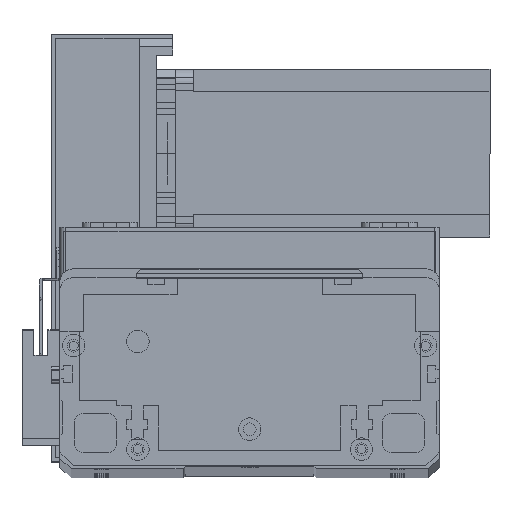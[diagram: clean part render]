
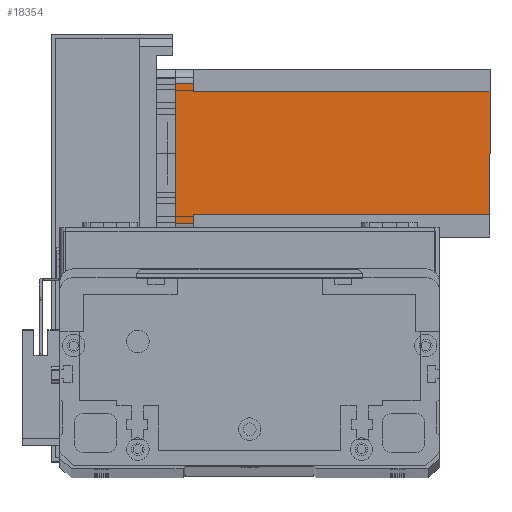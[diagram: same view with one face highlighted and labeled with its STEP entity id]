
A CAD part, top view. The second image highlights one B-rep face of the part: STEP entity #18354.
In plain terms, the highlighted planar face has unit normal (0, 0, 1) as drawn and (0, -1, 0) by its records, which use the part's own axes.
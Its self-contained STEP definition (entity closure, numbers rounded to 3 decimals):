
#1240 = LINE ( 'NONE', #21075, #24527 ) ;
#1861 = VECTOR ( 'NONE', #13462, 1000. ) ;
#3330 = ORIENTED_EDGE ( 'NONE', *, *, #12557, .T. ) ;
#4316 = DIRECTION ( 'NONE',  ( -1., 0., 0. ) ) ;
#4431 = DIRECTION ( 'NONE',  ( 0., 0., -1. ) ) ;
#4664 = VERTEX_POINT ( 'NONE', #28000 ) ;
#5072 = EDGE_CURVE ( 'NONE', #11538, #13471, #6957, .T. ) ;
#6458 = DIRECTION ( 'NONE',  ( 1., 0., 0. ) ) ;
#6760 = CARTESIAN_POINT ( 'NONE',  ( 0., 0., -112.5 ) ) ;
#6957 = LINE ( 'NONE', #7087, #18583 ) ;
#7087 = CARTESIAN_POINT ( 'NONE',  ( 55., 0., -112.5 ) ) ;
#7436 = VECTOR ( 'NONE', #6458, 1000. ) ;
#7635 = VECTOR ( 'NONE', #4316, 1000. ) ;
#9185 = PLANE ( 'NONE',  #15943 ) ;
#9701 = VERTEX_POINT ( 'NONE', #13020 ) ;
#10128 = DIRECTION ( 'NONE',  ( 1., 0., 0. ) ) ;
#10330 = EDGE_CURVE ( 'NONE', #14478, #11538, #13953, .T. ) ;
#10593 = VECTOR ( 'NONE', #23743, 1000. ) ;
#11398 = CARTESIAN_POINT ( 'NONE',  ( 8., 0., -6.5 ) ) ;
#11538 = VERTEX_POINT ( 'NONE', #17434 ) ;
#11809 = EDGE_CURVE ( 'NONE', #14230, #4664, #26739, .T. ) ;
#12557 = EDGE_CURVE ( 'NONE', #25997, #16082, #28117, .T. ) ;
#13020 = CARTESIAN_POINT ( 'NONE',  ( 5., 0., 0. ) ) ;
#13315 = CARTESIAN_POINT ( 'NONE',  ( 55., 0., 0. ) ) ;
#13462 = DIRECTION ( 'NONE',  ( 0., 0., 1. ) ) ;
#13471 = VERTEX_POINT ( 'NONE', #13315 ) ;
#13690 = LINE ( 'NONE', #20358, #7436 ) ;
#13860 = ORIENTED_EDGE ( 'NONE', *, *, #10330, .T. ) ;
#13953 = LINE ( 'NONE', #23844, #14665 ) ;
#14230 = VERTEX_POINT ( 'NONE', #18370 ) ;
#14478 = VERTEX_POINT ( 'NONE', #17144 ) ;
#14653 = CARTESIAN_POINT ( 'NONE',  ( 0., 0., -112.5 ) ) ;
#14665 = VECTOR ( 'NONE', #10128, 1000. ) ;
#15261 = EDGE_CURVE ( 'NONE', #14478, #16082, #25126, .T. ) ;
#15532 = CARTESIAN_POINT ( 'NONE',  ( 52., 0., -112.5 ) ) ;
#15943 = AXIS2_PLACEMENT_3D ( 'NONE', #6760, #18435, #4431 ) ;
#16082 = VERTEX_POINT ( 'NONE', #20946 ) ;
#17144 = CARTESIAN_POINT ( 'NONE',  ( 52., 0., -6.5 ) ) ;
#17434 = CARTESIAN_POINT ( 'NONE',  ( 55., 0., -6.5 ) ) ;
#17557 = FACE_OUTER_BOUND ( 'NONE', #22283, .T. ) ;
#17825 = DIRECTION ( 'NONE',  ( 0., 0., -1. ) ) ;
#18354 = ADVANCED_FACE ( 'NONE', ( #17557 ), #9185, .T. ) ;
#18361 = VECTOR ( 'NONE', #17825, 1000. ) ;
#18370 = CARTESIAN_POINT ( 'NONE',  ( 8., 0., -6.5 ) ) ;
#18435 = DIRECTION ( 'NONE',  ( 0., -1., 0. ) ) ;
#18583 = VECTOR ( 'NONE', #19193, 1000. ) ;
#19193 = DIRECTION ( 'NONE',  ( 0., 0., 1. ) ) ;
#19781 = LINE ( 'NONE', #27116, #1861 ) ;
#20340 = ORIENTED_EDGE ( 'NONE', *, *, #5072, .T. ) ;
#20358 = CARTESIAN_POINT ( 'NONE',  ( 0., 0., 0. ) ) ;
#20482 = CARTESIAN_POINT ( 'NONE',  ( 8., 0., -112.5 ) ) ;
#20799 = ORIENTED_EDGE ( 'NONE', *, *, #21411, .T. ) ;
#20833 = ORIENTED_EDGE ( 'NONE', *, *, #24260, .F. ) ;
#20946 = CARTESIAN_POINT ( 'NONE',  ( 52., 0., -112.5 ) ) ;
#21075 = CARTESIAN_POINT ( 'NONE',  ( 5., 0., -112.5 ) ) ;
#21411 = EDGE_CURVE ( 'NONE', #9701, #4664, #1240, .T. ) ;
#22283 = EDGE_LOOP ( 'NONE', ( #13860, #20340, #25292, #20799, #27246, #20833, #3330, #28073 ) ) ;
#23375 = DIRECTION ( 'NONE',  ( 0., 0., -1. ) ) ;
#23743 = DIRECTION ( 'NONE',  ( 1., 0., 0. ) ) ;
#23844 = CARTESIAN_POINT ( 'NONE',  ( 52., 0., -6.5 ) ) ;
#24260 = EDGE_CURVE ( 'NONE', #25997, #14230, #19781, .T. ) ;
#24277 = EDGE_CURVE ( 'NONE', #9701, #13471, #13690, .T. ) ;
#24527 = VECTOR ( 'NONE', #23375, 1000. ) ;
#25126 = LINE ( 'NONE', #15532, #18361 ) ;
#25292 = ORIENTED_EDGE ( 'NONE', *, *, #24277, .F. ) ;
#25997 = VERTEX_POINT ( 'NONE', #20482 ) ;
#26739 = LINE ( 'NONE', #11398, #7635 ) ;
#27116 = CARTESIAN_POINT ( 'NONE',  ( 8., 0., -112.5 ) ) ;
#27246 = ORIENTED_EDGE ( 'NONE', *, *, #11809, .F. ) ;
#28000 = CARTESIAN_POINT ( 'NONE',  ( 5., 0., -6.5 ) ) ;
#28073 = ORIENTED_EDGE ( 'NONE', *, *, #15261, .F. ) ;
#28117 = LINE ( 'NONE', #14653, #10593 ) ;
